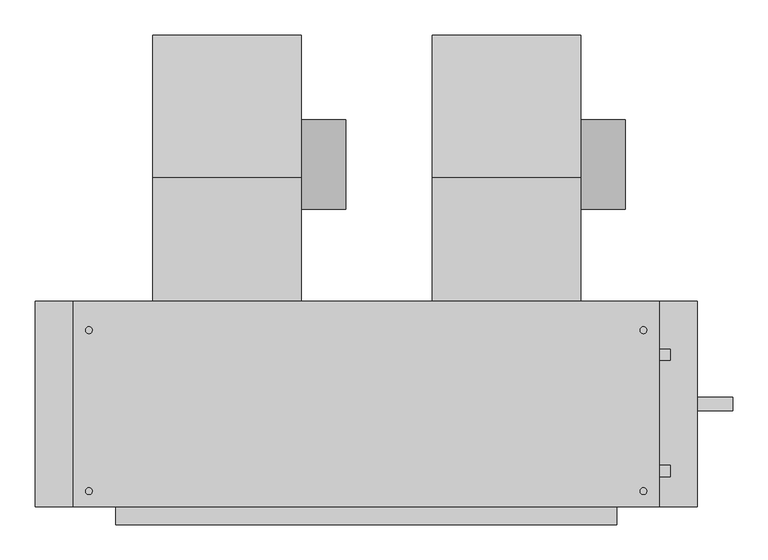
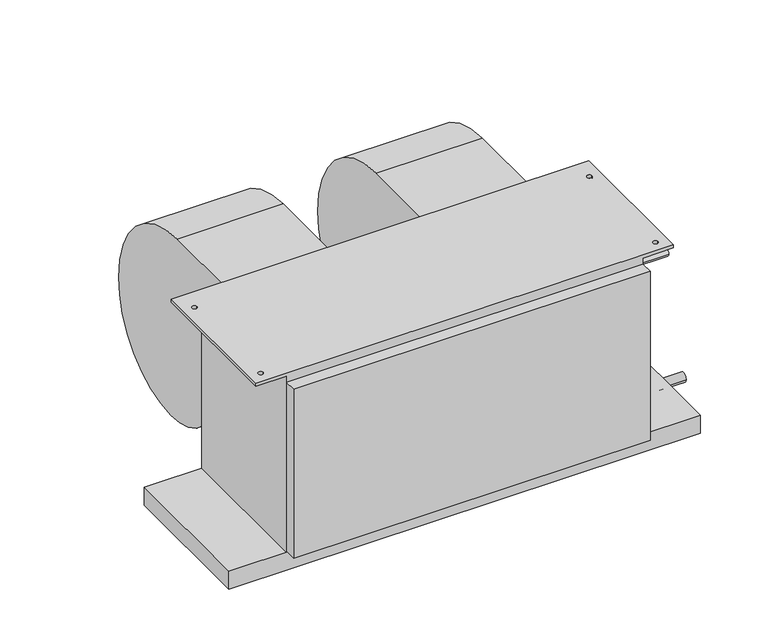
"""IFC4 building model written with IfcOpenShell, lengths in millimetres: proxy geometry, Concealed_High_Capacity_Horizontal_Fan_Coil_Unit_-_42DAA_-_CARRIER_-_2-Pipe_Cool-EHeat_RH_2022 : Size 12 - 277v/60Hz/1Ph - 6 Row 9.0kW."""

from ifc_helpers import new_model, si_unit, point, frame, frame_2d, origin, place, context, project, spatial, polyline, circle_curve, trimmed, segment, composite_curve, outline, extrude, source, transform, mapped, element, save
from ifc_brep_helpers import plane_surface, cylinder_surface, revolved_surface, advanced_brep


def mechanical_equipment_0da765f5(model_context):
    return source(origin(), model_context, "Body", "SolidModel", [
        extrude(outline(composite_curve([segment(trimmed(circle_curve(frame_2d((102.0007598, -206.8897468)), 63.5), [point((165.5007598, -206.8897468))], [point((38.5007598, -206.8897468))], False, "CARTESIAN"), True, "CONTINUOUS"), segment(trimmed(circle_curve(frame_2d((102.0007598, -206.8897468)), 63.5), [point((38.5007598, -206.8897468))], [point((165.5007598, -206.8897468))], False, "CARTESIAN"), True, "CONTINUOUS")], self_intersect=False)), frame((60.325, 0.0, 0.0), z_axis=(1.0, 0.0, 0.0), x_axis=(0.0, 1.0, 0.0)), (0.0, 0.0, 1.0), 63.5),
        advanced_brep(
        [(-150.749, 285.5155957, -222.029602), (-150.749, 104.6226, -403.64664), (-150.749, -50.9016, -277.10638), (-150.749, -92.075, -277.10638), (-150.749, -92.075, -19.05), (-150.749, 83.0080093, -19.05), (60.325, 285.5155957, -222.029602), (60.325, 83.0080093, -19.05), (60.325, -92.075, -19.05), (60.325, -92.075, -277.10638), (60.325, -50.9016, -277.10638), (60.325, 104.622599, -403.6457839)],
        [
            (0, 1, circle_curve(frame((-150.749, 104.44226, -222.57258), z_axis=(-1.0, 0.0, 0.0), x_axis=(0.0, -1.0, 0.0)), 181.0741498)),
            (1, 2, circle_curve(frame((-150.749, 104.44226, -245.02364), z_axis=(-1.0, 0.0, 0.0), x_axis=(0.0, -1.0, 0.0)), 158.6222464)),
            (2, 3),
            (3, 4),
            (4, 5),
            (5, 0, circle_curve(frame((-150.749, 81.9912, -222.57258), z_axis=(-1.0, 0.0, 0.0), x_axis=(0.0, -1.0, 0.0)), 203.52512)),
            (6, 7, circle_curve(frame((60.325, 81.9912, -222.57258), z_axis=(1.0, 0.0, 0.0), x_axis=(0.0, -1.0, 0.0)), 203.52512)),
            (7, 8),
            (8, 9),
            (9, 10),
            (10, 11, circle_curve(frame((60.325, 104.44226, -245.02364), z_axis=(1.0, 0.0, 0.0), x_axis=(0.0, -1.0, 0.0)), 158.6222464)),
            (11, 6, circle_curve(frame((60.325, 104.44226, -222.57258), z_axis=(1.0, 0.0, 0.0), x_axis=(0.0, -1.0, 0.0)), 181.0741498)),
            (0, 6),
            (11, 1),
            (10, 2),
            (9, 3),
            (8, 4),
            (7, 5),
        ],
        [
            plane_surface(frame((-150.749, -76.6318898, -222.57258), z_axis=(-1.0, 0.0, 0.0), x_axis=(0.0, 0.0, 1.0))),
            plane_surface(frame((60.325, -76.6318898, -222.57258), z_axis=(1.0, 0.0, 0.0), x_axis=(0.0, 0.0, -1.0))),
            cylinder_surface(frame((60.325, 104.44226, -222.57258), z_axis=(-1.0, 0.0, 0.0), x_axis=(0.0, -1.0, 0.0)), 181.0741498),
            cylinder_surface(frame((60.325, 104.44226, -245.02364), z_axis=(-1.0, 0.0, 0.0), x_axis=(0.0, -1.0, 0.0)), 158.6222464),
            plane_surface(frame((-150.749, -50.9016, -277.10638), z_axis=(0.0, 0.0, -1.0), x_axis=(1.0, 0.0, 0.0))),
            plane_surface(frame((-150.749, -92.075, -277.10638), z_axis=(0.0, -1.0, 0.0), x_axis=(1.0, 0.0, 0.0))),
            plane_surface(frame((-150.749, -92.075, -19.05), z_axis=(0.0, 0.0, 1.0), x_axis=(1.0, 0.0, 0.0))),
            cylinder_surface(frame((60.325, 81.9912, -222.57258), z_axis=(-1.0, 0.0, 0.0), x_axis=(0.0, -1.0, 0.0)), 203.52512),
        ],
        [
            (0, [[1, 2, 3, 4, 5, 6]]),
            (1, [[7, 8, 9, 10, 11, 12]]),
            (2, [[-1, 13, -12, 14]]),
            (3, [[-2, -14, -11, 15]]),
            (4, [[-3, -15, -10, 16]]),
            (5, [[-4, -16, -9, 17]]),
            (6, [[-5, -17, -8, 18]]),
            (7, [[-6, -18, -7, -13]]),
        ],
    ),
        extrude(outline(composite_curve([segment(trimmed(circle_curve(frame_2d((102.0007598, -206.8897468)), 63.5), [point((165.5007598, -206.8897468))], [point((38.5007598, -206.8897468))], False, "CARTESIAN"), True, "CONTINUOUS"), segment(trimmed(circle_curve(frame_2d((102.0007598, -206.8897468)), 63.5), [point((38.5007598, -206.8897468))], [point((165.5007598, -206.8897468))], False, "CARTESIAN"), True, "CONTINUOUS")], self_intersect=False)), frame((457.2, 0.0, 0.0), z_axis=(1.0, 0.0, 0.0), x_axis=(0.0, 1.0, 0.0)), (0.0, 0.0, 1.0), 63.5),
        advanced_brep(
        [(246.126, 285.5155957, -222.029602), (246.126, 104.6226, -403.64664), (246.126, -50.9016, -277.10638), (246.126, -92.075, -277.10638), (246.126, -92.075, -19.05), (246.126, 83.0080093, -19.05), (457.2, 285.5155957, -222.029602), (457.2, 83.0080093, -19.05), (457.2, -92.075, -19.05), (457.2, -92.075, -277.10638), (457.2, -50.9016, -277.10638), (457.2, 104.622599, -403.6457839)],
        [
            (0, 1, circle_curve(frame((246.126, 104.44226, -222.57258), z_axis=(-1.0, 0.0, 0.0), x_axis=(0.0, -1.0, 0.0)), 181.0741498)),
            (1, 2, circle_curve(frame((246.126, 104.44226, -245.02364), z_axis=(-1.0, 0.0, 0.0), x_axis=(0.0, -1.0, 0.0)), 158.6222464)),
            (2, 3),
            (3, 4),
            (4, 5),
            (5, 0, circle_curve(frame((246.126, 81.9912, -222.57258), z_axis=(-1.0, 0.0, 0.0), x_axis=(0.0, -1.0, 0.0)), 203.52512)),
            (6, 7, circle_curve(frame((457.2, 81.9912, -222.57258), z_axis=(1.0, 0.0, 0.0), x_axis=(0.0, -1.0, 0.0)), 203.52512)),
            (7, 8),
            (8, 9),
            (9, 10),
            (10, 11, circle_curve(frame((457.2, 104.44226, -245.02364), z_axis=(1.0, 0.0, 0.0), x_axis=(0.0, -1.0, 0.0)), 158.6222464)),
            (11, 6, circle_curve(frame((457.2, 104.44226, -222.57258), z_axis=(1.0, 0.0, 0.0), x_axis=(0.0, -1.0, 0.0)), 181.0741498)),
            (0, 6),
            (11, 1),
            (10, 2),
            (9, 3),
            (8, 4),
            (7, 5),
        ],
        [
            plane_surface(frame((246.126, -76.6318898, -222.57258), z_axis=(-1.0, 0.0, 0.0), x_axis=(0.0, 0.0, 1.0))),
            plane_surface(frame((457.2, -76.6318898, -222.57258), z_axis=(1.0, 0.0, 0.0), x_axis=(0.0, 0.0, -1.0))),
            cylinder_surface(frame((457.2, 104.44226, -222.57258), z_axis=(-1.0, 0.0, 0.0), x_axis=(0.0, -1.0, 0.0)), 181.0741498),
            cylinder_surface(frame((457.2, 104.44226, -245.02364), z_axis=(-1.0, 0.0, 0.0), x_axis=(0.0, -1.0, 0.0)), 158.6222464),
            plane_surface(frame((246.126, -50.9016, -277.10638), z_axis=(0.0, 0.0, -1.0), x_axis=(1.0, 0.0, 0.0))),
            plane_surface(frame((246.126, -92.075, -277.10638), z_axis=(0.0, -1.0, 0.0), x_axis=(1.0, 0.0, 0.0))),
            plane_surface(frame((246.126, -92.075, -19.05), z_axis=(0.0, 0.0, 1.0), x_axis=(1.0, 0.0, 0.0))),
            cylinder_surface(frame((457.2, 81.9912, -222.57258), z_axis=(-1.0, 0.0, 0.0), x_axis=(0.0, -1.0, 0.0)), 203.52512),
        ],
        [
            (0, [[1, 2, 3, 4, 5, 6]]),
            (1, [[7, 8, 9, 10, 11, 12]]),
            (2, [[-1, 13, -12, 14]]),
            (3, [[-2, -14, -11, 15]]),
            (4, [[-3, -15, -10, 16]]),
            (5, [[-4, -16, -9, 17]]),
            (6, [[-5, -17, -8, 18]]),
            (7, [[-6, -18, -7, -13]]),
        ],
    ),
        advanced_brep(
        [(508.0, -92.075, -377.825), (508.0, -384.175, -377.825), (-203.2, -384.175, -377.825), (-203.2, -92.075, -377.825), (-203.2, -384.175, -6.35), (-203.2, -92.075, -6.35), (508.0, -92.075, -6.35), (508.0, -384.175, -6.35), (568.325, -92.075, -6.35), (568.325, -384.175, -6.35), (541.3375, -133.35, -6.35), (550.8625, -133.35, -6.35), (541.3375, -361.95, -6.35), (550.8625, -361.95, -6.35), (-263.525, -92.075, -6.35), (-263.525, -384.175, -6.35), (-246.0625, -133.35, -6.35), (-236.5375, -133.35, -6.35), (-246.0625, -361.95, -6.35), (-236.5375, -361.95, -6.35), (568.325, -384.175, 0.0), (568.325, -92.075, 0.0), (-263.525, -92.075, 0.0), (-263.525, -384.175, 0.0), (-236.5375, -133.35, 0.0), (-246.0625, -133.35, 0.0), (-236.5375, -361.95, 0.0), (-246.0625, -361.95, 0.0), (550.8625, -133.35, 0.0), (541.3375, -133.35, 0.0), (550.8625, -361.95, 0.0), (541.3375, -361.95, 0.0)],
        [
            (0, 1),
            (1, 2),
            (2, 3),
            (3, 0),
            (2, 4),
            (4, 5),
            (5, 3),
            (0, 6),
            (6, 7),
            (7, 1),
            (8, 9),
            (9, 7),
            (6, 8),
            (10, 11, circle_curve(frame((546.1, -133.35, -6.35), z_axis=(0.0, 0.0, 1.0), x_axis=(1.0, 0.0, 0.0)), 4.7625)),
            (11, 10, circle_curve(frame((546.1, -133.35, -6.35), z_axis=(0.0, 0.0, 1.0), x_axis=(1.0, 0.0, 0.0)), 4.7625)),
            (12, 13, circle_curve(frame((546.1, -361.95, -6.35), z_axis=(0.0, 0.0, 1.0), x_axis=(1.0, 0.0, 0.0)), 4.7625)),
            (13, 12, circle_curve(frame((546.1, -361.95, -6.35), z_axis=(0.0, 0.0, 1.0), x_axis=(1.0, 0.0, 0.0)), 4.7625)),
            (14, 5),
            (4, 15),
            (15, 14),
            (16, 17, circle_curve(frame((-241.3, -133.35, -6.35), z_axis=(0.0, 0.0, 1.0), x_axis=(1.0, 0.0, 0.0)), 4.7625)),
            (17, 16, circle_curve(frame((-241.3, -133.35, -6.35), z_axis=(0.0, 0.0, 1.0), x_axis=(1.0, 0.0, 0.0)), 4.7625)),
            (18, 19, circle_curve(frame((-241.3, -361.95, -6.35), z_axis=(0.0, 0.0, 1.0), x_axis=(1.0, 0.0, 0.0)), 4.7625)),
            (19, 18, circle_curve(frame((-241.3, -361.95, -6.35), z_axis=(0.0, 0.0, 1.0), x_axis=(1.0, 0.0, 0.0)), 4.7625)),
            (20, 21),
            (21, 22),
            (22, 23),
            (23, 20),
            (24, 25, circle_curve(frame((-241.3, -133.35, 0.0), z_axis=(0.0, 0.0, -1.0), x_axis=(1.0, 0.0, 0.0)), 4.7625)),
            (25, 24, circle_curve(frame((-241.3, -133.35, 0.0), z_axis=(0.0, 0.0, -1.0), x_axis=(1.0, 0.0, 0.0)), 4.7625)),
            (26, 27, circle_curve(frame((-241.3, -361.95, 0.0), z_axis=(0.0, 0.0, -1.0), x_axis=(1.0, 0.0, 0.0)), 4.7625)),
            (27, 26, circle_curve(frame((-241.3, -361.95, 0.0), z_axis=(0.0, 0.0, -1.0), x_axis=(1.0, 0.0, 0.0)), 4.7625)),
            (28, 29, circle_curve(frame((546.1, -133.35, 0.0), z_axis=(0.0, 0.0, -1.0), x_axis=(1.0, 0.0, 0.0)), 4.7625)),
            (29, 28, circle_curve(frame((546.1, -133.35, 0.0), z_axis=(0.0, 0.0, -1.0), x_axis=(1.0, 0.0, 0.0)), 4.7625)),
            (30, 31, circle_curve(frame((546.1, -361.95, 0.0), z_axis=(0.0, 0.0, -1.0), x_axis=(1.0, 0.0, 0.0)), 4.7625)),
            (31, 30, circle_curve(frame((546.1, -361.95, 0.0), z_axis=(0.0, 0.0, -1.0), x_axis=(1.0, 0.0, 0.0)), 4.7625)),
            (14, 22),
            (21, 8),
            (9, 20),
            (23, 15),
            (24, 17),
            (16, 25),
            (26, 19),
            (18, 27),
            (28, 11),
            (10, 29),
            (30, 13),
            (12, 31),
        ],
        [
            plane_surface(frame((-203.2, -92.075, -377.825), z_axis=(0.0, 0.0, -1.0), x_axis=(1.0, 0.0, 0.0))),
            plane_surface(frame((-203.2, -92.075, 0.0), z_axis=(-1.0, 0.0, 0.0), x_axis=(0.0, 0.0, -1.0))),
            plane_surface(frame((508.0, -384.175, 0.0), z_axis=(1.0, 0.0, 0.0), x_axis=(0.0, 0.0, -1.0))),
            plane_surface(frame((508.0, -92.075, -6.35), z_axis=(0.0, 0.0, -1.0), x_axis=(1.0, 0.0, 0.0))),
            plane_surface(frame((508.0, -92.075, 0.0), z_axis=(0.0, 0.0, 1.0), x_axis=(-1.0, 0.0, 0.0))),
            plane_surface(frame((568.325, -92.075, 0.0), z_axis=(0.0, 1.0, 0.0), x_axis=(0.0, 0.0, -1.0))),
            plane_surface(frame((508.0, -384.175, 0.0), z_axis=(0.0, -1.0, 0.0), x_axis=(0.0, 0.0, -1.0))),
            plane_surface(frame((568.325, -384.175, 0.0), z_axis=(1.0, 0.0, 0.0), x_axis=(0.0, 0.0, -1.0))),
            plane_surface(frame((-263.525, -92.075, 0.0), z_axis=(-1.0, 0.0, 0.0), x_axis=(0.0, 0.0, -1.0))),
            revolved_surface(polyline([(-236.53750000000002, -133.35, 0.0), (-236.53750000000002, -133.35, -6.35)]), (-241.3, -133.35, -6.35), (0.0, 0.0, 1.0)),
            revolved_surface(polyline([(-236.53750000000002, -361.95, 0.0), (-236.53750000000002, -361.95, -6.35)]), (-241.3, -361.95, 0.0), (0.0, 0.0, 1.0)),
            revolved_surface(polyline([(550.8625000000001, -133.35, 0.0), (550.8625000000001, -133.35, -6.35)]), (546.1, -133.35, 0.0), (0.0, 0.0, 1.0)),
            revolved_surface(polyline([(550.8625000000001, -361.95, 0.0), (550.8625000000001, -361.95, -6.35)]), (546.1, -361.95, 0.0), (0.0, 0.0, 1.0)),
        ],
        [
            (0, [[1, 2, 3, 4]]),
            (1, [[-3, 5, 6, 7]]),
            (2, [[-1, 8, 9, 10]]),
            (3, [[11, 12, -9, 13], [14, 15], [16, 17]]),
            (3, [[18, -6, 19, 20], [21, 22], [23, 24]]),
            (4, [[25, 26, 27, 28], [29, 30], [31, 32], [33, 34], [35, 36]]),
            (5, [[-13, -8, -4, -7, -18, 37, -26, 38]]),
            (6, [[-12, 39, -28, 40, -19, -5, -2, -10]]),
            (7, [[-11, -38, -25, -39]]),
            (8, [[-20, -40, -27, -37]]),
            (9, [[41, -21, 42, -29]]),
            (9, [[-41, -30, -42, -22]]),
            (10, [[43, -23, 44, -31]]),
            (10, [[-43, -32, -44, -24]]),
            (11, [[45, -14, 46, -33]]),
            (11, [[-45, -34, -46, -15]]),
            (12, [[47, -16, 48, -35]]),
            (12, [[-47, -36, -48, -17]]),
        ],
    ),
        extrude(outline(composite_curve([segment(trimmed(circle_curve(frame_2d((-238.125, -403.225)), 9.525), [point((-228.6, -403.225))], [point((-247.65, -403.225))], False, "CARTESIAN"), True, "CONTINUOUS"), segment(trimmed(circle_curve(frame_2d((-238.125, -403.225)), 9.525), [point((-247.65, -403.225))], [point((-228.6, -403.225))], False, "CARTESIAN"), True, "CONTINUOUS")], self_intersect=False)), frame((622.3, 0.0, 0.0), z_axis=(1.0, 0.0, 0.0), x_axis=(0.0, 1.0, 0.0)), (0.0, 0.0, 1.0), 50.8),
        extrude(outline(composite_curve([segment(trimmed(circle_curve(frame_2d((-333.375, -50.8)), 7.9375), [point((-325.4375, -50.8))], [point((-341.3125, -50.8))], False, "CARTESIAN"), True, "CONTINUOUS"), segment(trimmed(circle_curve(frame_2d((-333.375, -50.8)), 7.9375), [point((-341.3125, -50.8))], [point((-325.4375, -50.8))], False, "CARTESIAN"), True, "CONTINUOUS")], self_intersect=False)), frame((508.0, 0.0, 0.0), z_axis=(1.0, 0.0, 0.0), x_axis=(0.0, 1.0, 0.0)), (0.0, 0.0, 1.0), 76.2),
        extrude(outline(composite_curve([segment(trimmed(circle_curve(frame_2d((-168.275, -327.025)), 7.9375), [point((-160.3375, -327.025))], [point((-176.2125, -327.025))], False, "CARTESIAN"), True, "CONTINUOUS"), segment(trimmed(circle_curve(frame_2d((-168.275, -327.025)), 7.9375), [point((-176.2125, -327.025))], [point((-160.3375, -327.025))], False, "CARTESIAN"), True, "CONTINUOUS")], self_intersect=False)), frame((508.0, 0.0, 0.0), z_axis=(1.0, 0.0, 0.0), x_axis=(0.0, 1.0, 0.0)), (0.0, 0.0, 1.0), 76.2),
        extrude(outline(polyline([(508.0, -409.575), (-203.2, -409.575), (-203.2, -384.175), (508.0, -384.175), (508.0, -409.575)])), frame((0.0, 0.0, -374.65), z_axis=(0.0, 0.0, 1.0), x_axis=(1.0, 0.0, 0.0)), (0.0, 0.0, 1.0), 355.6),
        extrude(outline(polyline([(622.3, -92.075), (622.3, -384.175), (-317.5, -384.175), (-317.5, -92.075), (622.3, -92.075)])), frame((0.0, 0.0, -415.925), z_axis=(0.0, 0.0, 1.0), x_axis=(1.0, 0.0, 0.0)), (0.0, 0.0, 1.0), 38.1),
    ])


if __name__ == "__main__":
    model = new_model("IFC4")
    model_context = context("Model", 3, world=origin())
    ifc_project = project(units=[si_unit("LENGTHUNIT", "METRE", prefix="MILLI")], contexts=[model_context])
    site = spatial("IfcSite", under=ifc_project)
    building = spatial("IfcBuilding", under=site)
    placement = place(None, origin())
    mechanical_equipment_shape = mechanical_equipment_0da765f5(model_context)
    element("IfcBuildingElementProxy", 1, Name="Concealed_High_Capacity_Horizontal_Fan_Coil_Unit_-_42DAA_-_CARRIER_-_2-Pipe_Cool-EHeat_RH_2022 : Size 12 - 277v/60Hz/1Ph - 6 Row 9.0kW", ObjectType="Concealed_High_Capacity_Horizontal_Fan_Coil_Unit_-_42DAA_-_CARRIER_-_2-Pipe_Cool-EHeat_RH_2022 : Size 12 - 277v/60Hz/1Ph - 6 Row 9.0kW", at=placement, inside=building, context=model_context, shape_type="MappedRepresentation", body=[
        mapped(mechanical_equipment_shape, transform((0.0, 0.0, 0.0), x_axis=(1.0, 0.0, 0.0), y_axis=(0.0, 1.0, 0.0), z_axis=(0.0, 0.0, 1.0))),
    ])
    save(model, "model.ifc")
